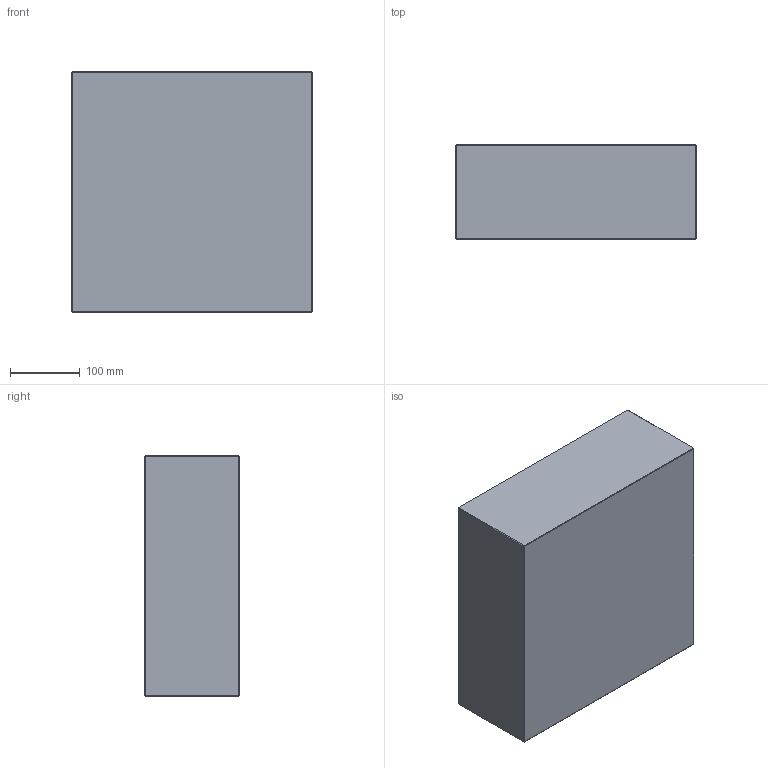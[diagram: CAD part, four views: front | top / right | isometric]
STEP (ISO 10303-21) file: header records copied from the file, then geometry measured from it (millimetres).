
FILE_DESCRIPTION (( 'STEP AP214' ), '1' );
FILE_NAME ('PC-P-346x346x136.STEP', '2020-04-01T10:03:30', ( 'August' ), ( '' ), 'SwSTEP 2.0', 'SolidWorks 2018', '' );
FILE_SCHEMA (( 'AUTOMOTIVE_DESIGN' ));
Length unit declared in the file: millimetre
Products named in the file (1): PC-P-346x346x136
Bounding box: 346 x 136 x 346 mm (x, y, z)
Volume: 16279725.3 mm3; surface area: 425712.9 mm2
Topology: 1 solids, 1 shells, 26 faces, 48 edges, 24 vertices
Faces by surface type: plane 26
Entity records: 634 total; most frequent: DIRECTION 102, CARTESIAN_POINT 99, ORIENTED_EDGE 96, LINE 48, VECTOR 48, EDGE_CURVE 48, AXIS2_PLACEMENT_3D 27, EDGE_LOOP 26
